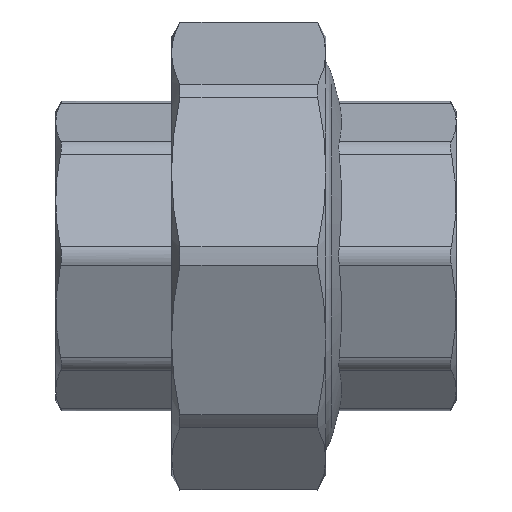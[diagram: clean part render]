
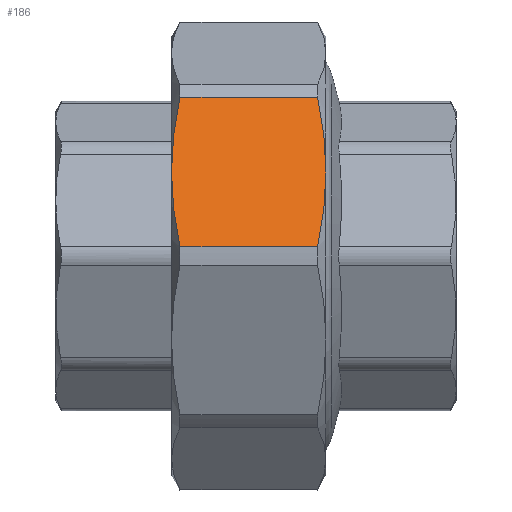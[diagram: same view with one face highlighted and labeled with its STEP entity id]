
A CAD part, left-side view. The second image highlights one B-rep face of the part: STEP entity #186.
In plain terms, the highlighted planar face has unit normal (-0.924, 0, 0.383).
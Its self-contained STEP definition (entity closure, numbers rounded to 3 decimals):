
#186=ADVANCED_FACE('',(#1188),#1190,.T.);
#1188=FACE_BOUND('',#1189,.T.);
#1189=EDGE_LOOP('',(#2529,#2530,#2531,#2532,#2533,#2534));
#1190=PLANE('',#1191);
#1191=AXIS2_PLACEMENT_3D('',#1192,#1193,#1194);
#1192=CARTESIAN_POINT('',(-17.412,29.505,17.412));
#1193=DIRECTION('',(-0.924,0.,0.383));
#1194=DIRECTION('',(-0.383,0.,-0.924));
#2529=ORIENTED_EDGE('',*,*,#3457,.T.);
#2530=ORIENTED_EDGE('',*,*,#3192,.T.);
#2531=ORIENTED_EDGE('',*,*,#3183,.T.);
#2532=ORIENTED_EDGE('',*,*,#3458,.T.);
#2533=ORIENTED_EDGE('',*,*,#3459,.T.);
#2534=ORIENTED_EDGE('',*,*,#3460,.T.);
#3183=EDGE_CURVE('',#3632,#3889,#3890,.T.);
#3192=EDGE_CURVE('',#3906,#3632,#3907,.T.);
#3457=EDGE_CURVE('',#4307,#3906,#4308,.F.);
#3458=EDGE_CURVE('',#3889,#4309,#4310,.T.);
#3459=EDGE_CURVE('',#4309,#4311,#4312,.T.);
#3460=EDGE_CURVE('',#4311,#4307,#4313,.T.);
#3632=VERTEX_POINT('',#4556);
#3889=VERTEX_POINT('',#5084);
#3890=B_SPLINE_CURVE_WITH_KNOTS('',3,
(#5085,#5086,#5087,#5088,#5089,#5090,#5091,#5092,#5093,#5094,#5095,#5096,#5097,#5098,
#5099,#5100,#5101,#5102,#5103),
.UNSPECIFIED.,.F.,.F.,
(4,1,1,1,1,1,1,1,1,1,1,1,1,1,1,1,4),
(0.,0.045,0.089,0.133,0.176,0.218,
0.26,0.3,0.339,0.377,0.418,
0.462,0.531,0.629,0.753,0.879,
1.),
.UNSPECIFIED.);
#3906=VERTEX_POINT('',#5240);
#3907=B_SPLINE_CURVE_WITH_KNOTS('',3,
(#5241,#5242,#5243,#5244,#5245,#5246,#5247,#5248,#5249,#5250,#5251,#5252,#5253,#5254,
#5255,#5256,#5257,#5258,#5259,#5260,#5261),
.UNSPECIFIED.,.F.,.F.,
(4,1,1,1,1,1,1,1,1,1,1,1,1,1,1,1,1,1,4),
(0.,0.132,0.263,0.387,0.475,0.534,
0.57,0.606,0.641,0.676,0.71,
0.745,0.78,0.816,0.853,0.889,
0.926,0.963,1.),
.UNSPECIFIED.);
#4307=VERTEX_POINT('',#6848);
#4308=LINE('',#6849,#6850);
#4309=VERTEX_POINT('',#6852);
#4310=LINE('',#6853,#6854);
#4311=VERTEX_POINT('',#6856);
#4312=B_SPLINE_CURVE_WITH_KNOTS('',3,
(#6857,#6858,#6859,#6860,#6861,#6862,#6863,#6864,#6865,#6866,#6867,#6868,#6869,#6870,
#6871,#6872,#6873,#6874,#6875,#6876,#6877),
.UNSPECIFIED.,.F.,.F.,
(4,1,1,1,1,1,1,1,1,1,1,1,1,1,1,1,1,1,4),
(0.,0.132,0.263,0.387,0.475,0.534,
0.57,0.606,0.641,0.676,0.71,
0.745,0.78,0.816,0.853,0.889,
0.926,0.963,1.),
.UNSPECIFIED.);
#4313=B_SPLINE_CURVE_WITH_KNOTS('',3,
(#6878,#6879,#6880,#6881,#6882,#6883,#6884,#6885,#6886,#6887,#6888,#6889,#6890,#6891,
#6892,#6893,#6894,#6895,#6896),
.UNSPECIFIED.,.F.,.F.,
(4,1,1,1,1,1,1,1,1,1,1,1,1,1,1,1,4),
(0.,0.045,0.089,0.133,0.176,0.218,
0.26,0.3,0.339,0.377,0.418,
0.462,0.531,0.629,0.753,0.879,
1.),
.UNSPECIFIED.);
#4556=CARTESIAN_POINT('',(-21.018,29.505,8.706));
#5084=CARTESIAN_POINT('',(-24.231,28.639,0.949));
#5085=CARTESIAN_POINT('',(-21.018,29.505,8.706));
#5086=CARTESIAN_POINT('',(-21.066,29.505,8.59));
#5087=CARTESIAN_POINT('',(-21.162,29.504,8.358));
#5088=CARTESIAN_POINT('',(-21.306,29.498,8.012));
#5089=CARTESIAN_POINT('',(-21.447,29.49,7.671));
#5090=CARTESIAN_POINT('',(-21.587,29.478,7.334));
#5091=CARTESIAN_POINT('',(-21.723,29.463,7.004));
#5092=CARTESIAN_POINT('',(-21.857,29.445,6.681));
#5093=CARTESIAN_POINT('',(-21.986,29.425,6.369));
#5094=CARTESIAN_POINT('',(-22.113,29.402,6.064));
#5095=CARTESIAN_POINT('',(-22.239,29.377,5.758));
#5096=CARTESIAN_POINT('',(-22.372,29.348,5.439));
#5097=CARTESIAN_POINT('',(-22.537,29.308,5.04));
#5098=CARTESIAN_POINT('',(-22.764,29.246,4.492));
#5099=CARTESIAN_POINT('',(-23.076,29.147,3.738));
#5100=CARTESIAN_POINT('',(-23.448,29.007,2.841));
#5101=CARTESIAN_POINT('',(-23.842,28.835,1.888));
#5102=CARTESIAN_POINT('',(-24.104,28.706,1.257));
#5103=CARTESIAN_POINT('',(-24.231,28.639,0.949));
#5240=CARTESIAN_POINT('',(-17.805,28.639,16.463));
#5241=CARTESIAN_POINT('',(-17.805,28.639,16.463));
#5242=CARTESIAN_POINT('',(-17.945,28.712,16.127));
#5243=CARTESIAN_POINT('',(-18.224,28.849,15.453));
#5244=CARTESIAN_POINT('',(-18.635,29.026,14.459));
#5245=CARTESIAN_POINT('',(-19.002,29.161,13.573));
#5246=CARTESIAN_POINT('',(-19.292,29.251,12.873));
#5247=CARTESIAN_POINT('',(-19.489,29.305,12.398));
#5248=CARTESIAN_POINT('',(-19.629,29.339,12.06));
#5249=CARTESIAN_POINT('',(-19.744,29.365,11.783));
#5250=CARTESIAN_POINT('',(-19.857,29.389,11.51));
#5251=CARTESIAN_POINT('',(-19.969,29.41,11.239));
#5252=CARTESIAN_POINT('',(-20.081,29.43,10.968));
#5253=CARTESIAN_POINT('',(-20.194,29.447,10.695));
#5254=CARTESIAN_POINT('',(-20.309,29.462,10.419));
#5255=CARTESIAN_POINT('',(-20.424,29.475,10.14));
#5256=CARTESIAN_POINT('',(-20.541,29.486,9.857));
#5257=CARTESIAN_POINT('',(-20.66,29.494,9.572));
#5258=CARTESIAN_POINT('',(-20.779,29.5,9.284));
#5259=CARTESIAN_POINT('',(-20.898,29.504,8.995));
#5260=CARTESIAN_POINT('',(-20.978,29.505,8.803));
#5261=CARTESIAN_POINT('',(-21.018,29.505,8.706));
#6848=CARTESIAN_POINT('',(-17.805,14.371,16.463));
#6849=CARTESIAN_POINT('',(-17.805,28.639,16.463));
#6850=VECTOR('',#6851,1.);
#6851=DIRECTION('',(0.,-1.,0.));
#6852=CARTESIAN_POINT('',(-24.231,14.371,0.949));
#6853=CARTESIAN_POINT('',(-24.231,28.639,0.949));
#6854=VECTOR('',#6855,1.);
#6855=DIRECTION('',(0.,-1.,0.));
#6856=CARTESIAN_POINT('',(-21.018,13.505,8.706));
#6857=CARTESIAN_POINT('',(-24.231,14.371,0.949));
#6858=CARTESIAN_POINT('',(-24.092,14.298,1.285));
#6859=CARTESIAN_POINT('',(-23.813,14.161,1.96));
#6860=CARTESIAN_POINT('',(-23.401,13.984,2.953));
#6861=CARTESIAN_POINT('',(-23.034,13.849,3.839));
#6862=CARTESIAN_POINT('',(-22.744,13.759,4.539));
#6863=CARTESIAN_POINT('',(-22.548,13.705,5.014));
#6864=CARTESIAN_POINT('',(-22.408,13.671,5.352));
#6865=CARTESIAN_POINT('',(-22.293,13.645,5.629));
#6866=CARTESIAN_POINT('',(-22.18,13.621,5.902));
#6867=CARTESIAN_POINT('',(-22.067,13.6,6.173));
#6868=CARTESIAN_POINT('',(-21.955,13.581,6.444));
#6869=CARTESIAN_POINT('',(-21.842,13.563,6.717));
#6870=CARTESIAN_POINT('',(-21.728,13.548,6.993));
#6871=CARTESIAN_POINT('',(-21.612,13.535,7.273));
#6872=CARTESIAN_POINT('',(-21.495,13.524,7.556));
#6873=CARTESIAN_POINT('',(-21.376,13.516,7.841));
#6874=CARTESIAN_POINT('',(-21.258,13.51,8.128));
#6875=CARTESIAN_POINT('',(-21.138,13.506,8.417));
#6876=CARTESIAN_POINT('',(-21.058,13.505,8.61));
#6877=CARTESIAN_POINT('',(-21.018,13.505,8.706));
#6878=CARTESIAN_POINT('',(-21.018,13.505,8.706));
#6879=CARTESIAN_POINT('',(-20.97,13.505,8.822));
#6880=CARTESIAN_POINT('',(-20.874,13.506,9.054));
#6881=CARTESIAN_POINT('',(-20.731,13.512,9.4));
#6882=CARTESIAN_POINT('',(-20.59,13.52,9.741));
#6883=CARTESIAN_POINT('',(-20.45,13.532,10.078));
#6884=CARTESIAN_POINT('',(-20.313,13.548,10.408));
#6885=CARTESIAN_POINT('',(-20.18,13.565,10.731));
#6886=CARTESIAN_POINT('',(-20.05,13.586,11.043));
#6887=CARTESIAN_POINT('',(-19.924,13.608,11.348));
#6888=CARTESIAN_POINT('',(-19.797,13.633,11.654));
#6889=CARTESIAN_POINT('',(-19.665,13.662,11.973));
#6890=CARTESIAN_POINT('',(-19.5,13.702,12.373));
#6891=CARTESIAN_POINT('',(-19.273,13.764,12.92));
#6892=CARTESIAN_POINT('',(-18.96,13.864,13.674));
#6893=CARTESIAN_POINT('',(-18.589,14.003,14.572));
#6894=CARTESIAN_POINT('',(-18.194,14.175,15.524));
#6895=CARTESIAN_POINT('',(-17.933,14.304,16.155));
#6896=CARTESIAN_POINT('',(-17.805,14.371,16.463));
